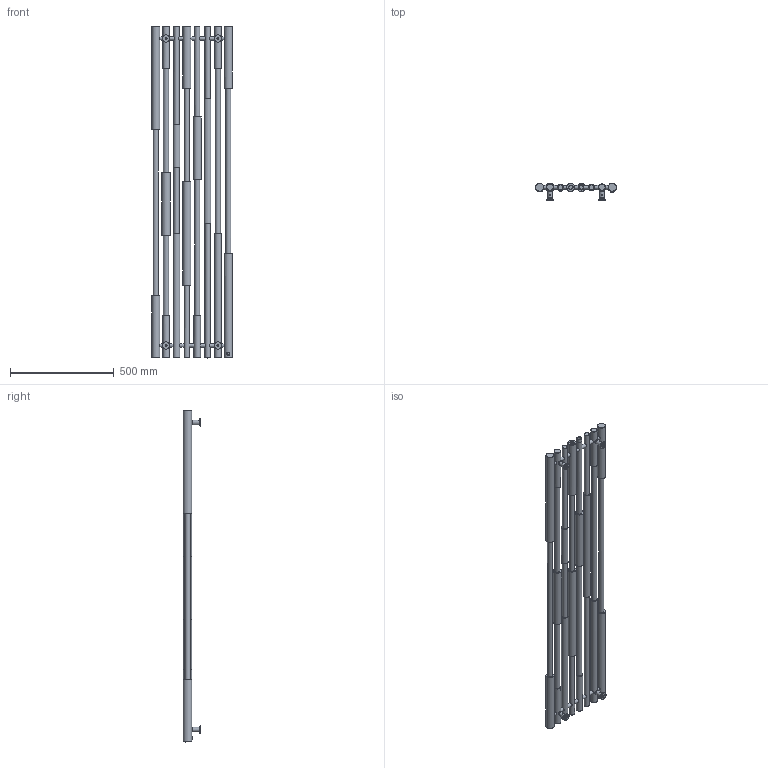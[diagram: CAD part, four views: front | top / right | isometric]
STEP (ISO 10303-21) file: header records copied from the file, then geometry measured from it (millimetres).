
FILE_DESCRIPTION((''),'2;1');
FILE_NAME('Z:\R\G\P\RGP103 - Grzejnik Tube (Cane)\Work\Inventor\Marketing\Katalog 2012\CAD 3D\TUB-1600-390-ZX.stp','2012-07-12T12:56:50',('KurKa'),(''),'Autodesk Inventor 2012','Autodesk Inventor 2012','');
FILE_SCHEMA(('AUTOMOTIVE_DESIGN { 1 0 10303 214 1 1 1 1 }'));
Length unit declared in the file: millimetre
Products named in the file (3): TUB-1600-390-ZX; TUB-1600-390-ZX v1; Konsola Ribbon
Assembly tree (5 placements, depth 2):
  TUB-1600-390-ZX
    TUB-1600-390-ZX v1
    Konsola Ribbon  x4
Bounding box: 390 x 83 x 1600 mm (x, y, z)
Volume: 9598418.4 mm3; surface area: 1281481.8 mm2
Topology: 5 solids, 5 shells, 177 faces, 394 edges, 273 vertices
Faces by surface type: cylinder 80, plane 68, cone 21, torus 8
Full cylindrical faces by diameter (mm): 4.134 x4, 10 x4, 11.445 x1, 15.9 x1, 17 x4, 18 x14, 18.631 x2, 19 x4, 22 x4, 25 x13, 32 x8, 35 x4, 40 x8
Entity records: 4709 total; most frequent: CARTESIAN_POINT 2023, DIRECTION 520, ORIENTED_EDGE 342, EDGE_LOOP 288, AXIS2_PLACEMENT_3D 256, EDGE_CURVE 171, VERTEX_POINT 167, FACE_BOUND 153
